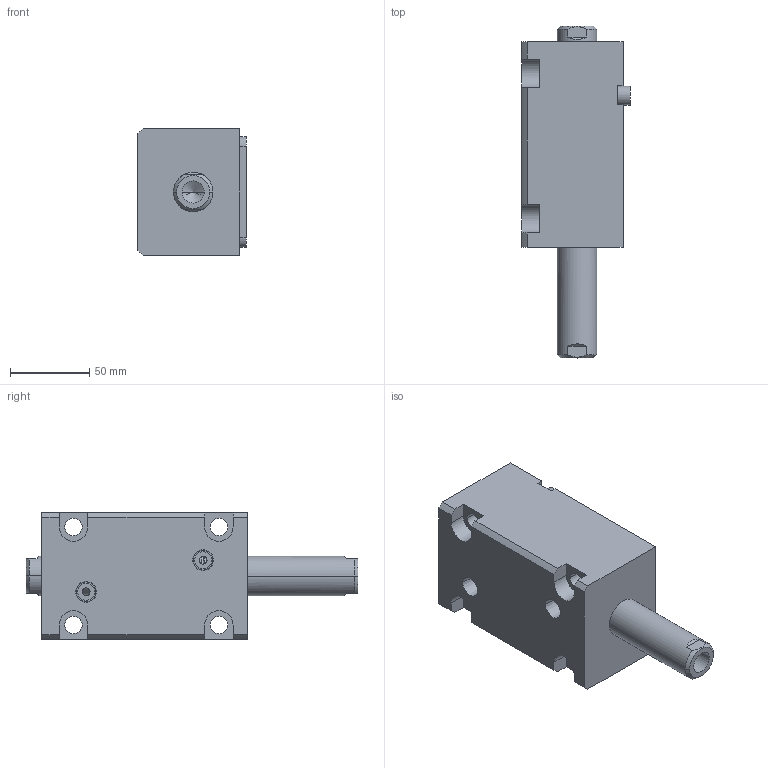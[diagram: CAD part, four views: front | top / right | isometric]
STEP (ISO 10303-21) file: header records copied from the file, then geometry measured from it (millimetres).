
FILE_DESCRIPTION (( 'STEP AP214' ), '1' );
FILE_NAME ('chtb-lw40x60n_asm.STEP', '2018-06-05T01:59:16', ( 'Windows' ), ( 'Microsoft' ), 'SwSTEP 2.0', 'SolidWorks 2015', '' );
FILE_SCHEMA (( 'AUTOMOTIVE_DESIGN' ));
Length unit declared in the file: millimetre
Products named in the file (5): CHTB-LW40X60NBT; CHTB-LA40PJ; chtb-lw40x60n_asm; CHTB-SW40X60NHSG; CHTB-SD40QG
Assembly tree (4 placements, depth 2):
  chtb-lw40x60n_asm
    CHTB-LA40PJ
    CHTB-LW40X60NBT
    CHTB-SD40QG
    CHTB-SW40X60NHSG
Bounding box: 68.5 x 210 x 80 mm (x, y, z)
Volume: 615097.8 mm3; surface area: 106367.4 mm2
Topology: 4 solids, 4 shells, 172 faces, 462 edges, 304 vertices
Faces by surface type: cylinder 77, plane 52, cone 17, bspline 14, torus 12
Entity records: 10654 total; most frequent: CARTESIAN_POINT 6188, ORIENTED_EDGE 904, DIRECTION 853, EDGE_CURVE 452, AXIS2_PLACEMENT_3D 340, VERTEX_POINT 304, EDGE_LOOP 204, CIRCLE 175
